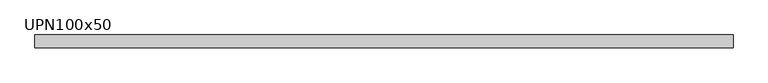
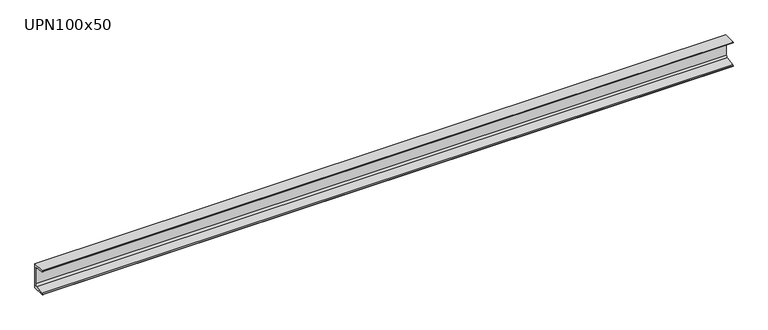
"""IFC4 building model written with IfcOpenShell, lengths in millimetres: beam geometry, M_MC Shapes : UPN100x50."""

from ifc_helpers import new_model, si_unit, point, frame, frame_2d, origin, place, context, project, spatial, polyline, circle_curve, trimmed, segment, composite_curve, outline, extrude, source, transform, mapped, element, save


def upn100x50_d0d35084(model_context):
    return source(origin(), model_context, "Body", "SweptSolid", [
        extrude(outline(composite_curve([segment(polyline([(10.9, 50.0), (10.9, -50.0), (-39.1, -50.0), (-39.1, -49.0253247)]), True, "CONTINUOUS"), segment(trimmed(circle_curve(frame_2d((-35.15, -49.0253247)), 3.95), [point((-39.1, -49.0253247))], [point((-35.7993773, -45.1290689))], False, "CARTESIAN"), True, "CONTINUOUS"), segment(polyline([(-35.7993773, -45.1290689), (-0.2512455, -39.2043685)]), True, "CONTINUOUS"), segment(trimmed(circle_curve(frame_2d((-1.55, -31.4118569)), 7.9), [point((-0.2512455, -39.2043685))], [point((6.35, -31.4118569))], True, "CARTESIAN"), True, "CONTINUOUS"), segment(polyline([(6.35, -31.4118569), (6.35, 31.4118569)]), True, "CONTINUOUS"), segment(trimmed(circle_curve(frame_2d((-1.55, 31.4118569)), 7.9), [point((6.35, 31.4118569))], [point((-0.2512455, 39.2043685))], True, "CARTESIAN"), True, "CONTINUOUS"), segment(polyline([(-0.2512455, 39.2043685), (-35.7993773, 45.1290689)]), True, "CONTINUOUS"), segment(trimmed(circle_curve(frame_2d((-35.15, 49.0253247)), 3.95), [point((-35.7993773, 45.1290689))], [point((-39.1, 49.0253247))], False, "CARTESIAN"), True, "CONTINUOUS"), segment(polyline([(-39.1, 49.0253247), (-39.1, 50.0), (10.9, 50.0)]), True, "CONTINUOUS")], self_intersect=False)), frame((-1280.75, 0.0, 0.0), z_axis=(1.0, 0.0, 0.0), x_axis=(0.0, 1.0, 0.0)), (0.0, 0.0, 1.0), 2721.6),
    ])


if __name__ == "__main__":
    model = new_model("IFC4")
    model_context = context("Model", 3, world=origin())
    ifc_project = project(units=[si_unit("LENGTHUNIT", "METRE", prefix="MILLI")], contexts=[model_context])
    site = spatial("IfcSite", under=ifc_project)
    building = spatial("IfcBuilding", under=site)
    placement = place(None, origin())
    upn100x50_shape = upn100x50_d0d35084(model_context)
    element("IfcBeam", 1, ObjectType="M_MC Shapes : UPN100x50", at=placement, inside=building, context=model_context, shape_type="MappedRepresentation", body=[
        mapped(upn100x50_shape, transform((0.0, 0.0, 0.0), x_axis=(1.0, 0.0, 0.0), y_axis=(0.0, 1.0, 0.0), z_axis=(0.0, 0.0, 1.0))),
    ])
    save(model, "model.ifc")
